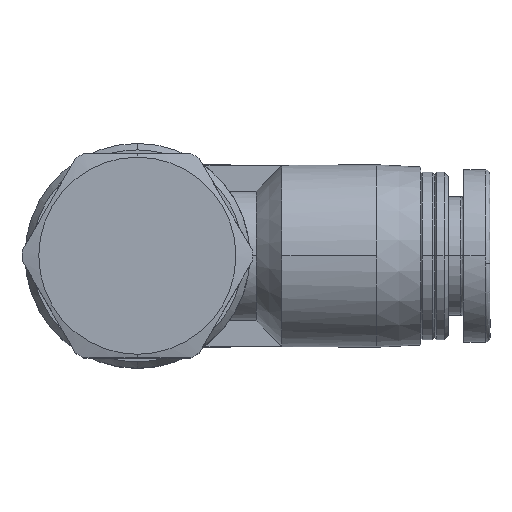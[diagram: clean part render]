
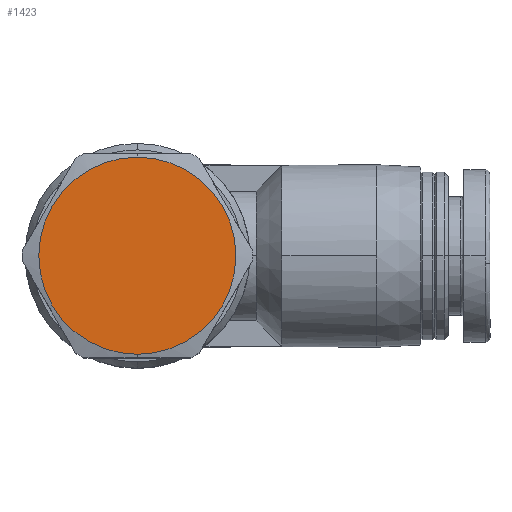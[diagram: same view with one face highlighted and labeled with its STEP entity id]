
A CAD part, top view. The second image highlights one B-rep face of the part: STEP entity #1423.
In plain terms, the highlighted planar face has unit normal (0, 0, 1).
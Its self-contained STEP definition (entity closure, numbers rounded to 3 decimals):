
#431 = DIRECTION ( 'NONE',  ( 1., 0., 0. ) ) ;
#464 = DIRECTION ( 'NONE',  ( 0., 1., 0. ) ) ;
#476 = VERTEX_POINT ( 'NONE', #2252 ) ;
#606 = DIRECTION ( 'NONE',  ( 0., 0., -1. ) ) ;
#645 = VERTEX_POINT ( 'NONE', #1932 ) ;
#683 = EDGE_LOOP ( 'NONE', ( #1614, #2055 ) ) ;
#945 = CIRCLE ( 'NONE', #2694, 6.75 ) ;
#951 = EDGE_CURVE ( 'NONE', #476, #645, #945, .T. ) ;
#1121 = DIRECTION ( 'NONE',  ( 0., 1., 0. ) ) ;
#1292 = EDGE_CURVE ( 'NONE', #645, #476, #1935, .T. ) ;
#1347 = AXIS2_PLACEMENT_3D ( 'NONE', #3000, #606, #1121 ) ;
#1361 = CARTESIAN_POINT ( 'NONE',  ( 0., 0., 27. ) ) ;
#1423 = ADVANCED_FACE ( '35', ( #2840 ), #2586, .T. ) ;
#1614 = ORIENTED_EDGE ( 'NONE', *, *, #1292, .F. ) ;
#1685 = AXIS2_PLACEMENT_3D ( 'NONE', #2785, #2341, #431 ) ;
#1932 = CARTESIAN_POINT ( 'NONE',  ( 0., 6.75, 27. ) ) ;
#1935 = CIRCLE ( 'NONE', #1347, 6.75 ) ;
#2055 = ORIENTED_EDGE ( 'NONE', *, *, #951, .F. ) ;
#2176 = DIRECTION ( 'NONE',  ( 0., 0., -1. ) ) ;
#2252 = CARTESIAN_POINT ( 'NONE',  ( 0., -6.75, 27. ) ) ;
#2341 = DIRECTION ( 'NONE',  ( 0., 0., 1. ) ) ;
#2586 = PLANE ( 'NONE',  #1685 ) ;
#2694 = AXIS2_PLACEMENT_3D ( 'NONE', #1361, #2176, #464 ) ;
#2785 = CARTESIAN_POINT ( 'NONE',  ( 7.25, 7.25, 27. ) ) ;
#2840 = FACE_OUTER_BOUND ( 'NONE', #683, .T. ) ;
#3000 = CARTESIAN_POINT ( 'NONE',  ( 0., 0., 27. ) ) ;
